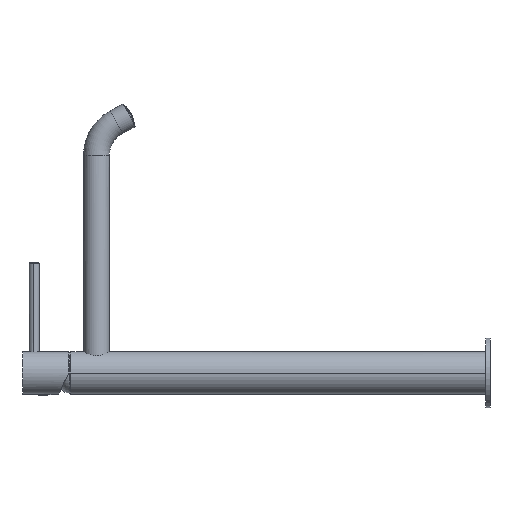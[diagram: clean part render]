
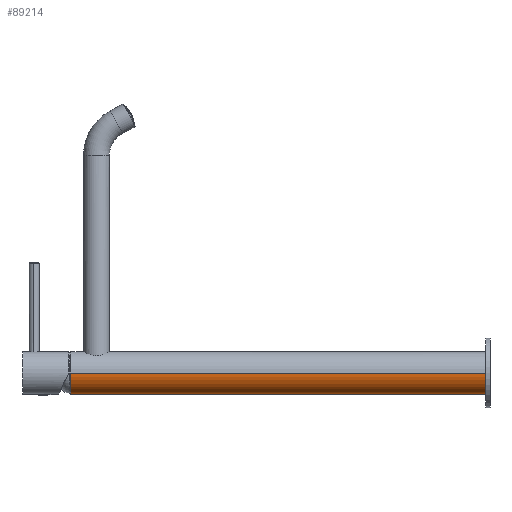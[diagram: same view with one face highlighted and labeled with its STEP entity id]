
A CAD part, left-side view. The second image highlights one B-rep face of the part: STEP entity #89214.
In plain terms, the highlighted cylindrical face has radius 15 mm (diameter 30 mm), a partial arc.
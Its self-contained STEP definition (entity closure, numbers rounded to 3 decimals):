
#18211=CARTESIAN_POINT('',(0.,0.,0.));
#18212=DIRECTION('',(0.,1.,0.));
#18213=DIRECTION('',(1.,0.,0.));
#18214=AXIS2_PLACEMENT_3D('',#18211,#18212,#18213);
#18216=DIRECTION('',(0.,-1.,0.));
#18217=VECTOR('',#18216,290.);
#18218=CARTESIAN_POINT('',(15.,290.,0.));
#18219=LINE('',#18218,#18217);
#18220=CARTESIAN_POINT('',(0.,290.,0.));
#18221=DIRECTION('',(0.,-1.,0.));
#18222=DIRECTION('',(-1.,0.,0.));
#18223=AXIS2_PLACEMENT_3D('',#18220,#18221,#18222);
#18225=DIRECTION('',(0.,-1.,0.));
#18226=VECTOR('',#18225,290.);
#18227=CARTESIAN_POINT('',(-15.,290.,0.));
#18228=LINE('',#18227,#18226);
#62856=CARTESIAN_POINT('',(-15.,290.,0.));
#62857=CARTESIAN_POINT('',(15.,290.,0.));
#62858=VERTEX_POINT('',#62856);
#62859=VERTEX_POINT('',#62857);
#70052=CARTESIAN_POINT('',(-15.,0.,0.));
#70053=CARTESIAN_POINT('',(15.,0.,0.));
#70054=VERTEX_POINT('',#70052);
#70055=VERTEX_POINT('',#70053);
#89200=CARTESIAN_POINT('',(0.,-14.5,0.));
#89201=DIRECTION('',(0.,1.,0.));
#89202=DIRECTION('',(1.,0.,0.));
#89203=AXIS2_PLACEMENT_3D('',#89200,#89201,#89202);
#89204=CYLINDRICAL_SURFACE('',#89203,15.);
#89206=ORIENTED_EDGE('',*,*,#89205,.F.);
#89208=ORIENTED_EDGE('',*,*,#89207,.F.);
#89209=ORIENTED_EDGE('',*,*,#89188,.F.);
#89211=ORIENTED_EDGE('',*,*,#89210,.T.);
#89212=EDGE_LOOP('',(#89206,#89208,#89209,#89211));
#89213=FACE_OUTER_BOUND('',#89212,.F.);
#89214=ADVANCED_FACE('',(#89213),#89204,.T.);
#18215=CIRCLE('',#18214,15.);
#18224=CIRCLE('',#18223,15.);
#89188=EDGE_CURVE('',#62858,#62859,#18224,.T.);
#89205=EDGE_CURVE('',#70055,#70054,#18215,.T.);
#89207=EDGE_CURVE('',#62859,#70055,#18219,.T.);
#89210=EDGE_CURVE('',#62858,#70054,#18228,.T.);
